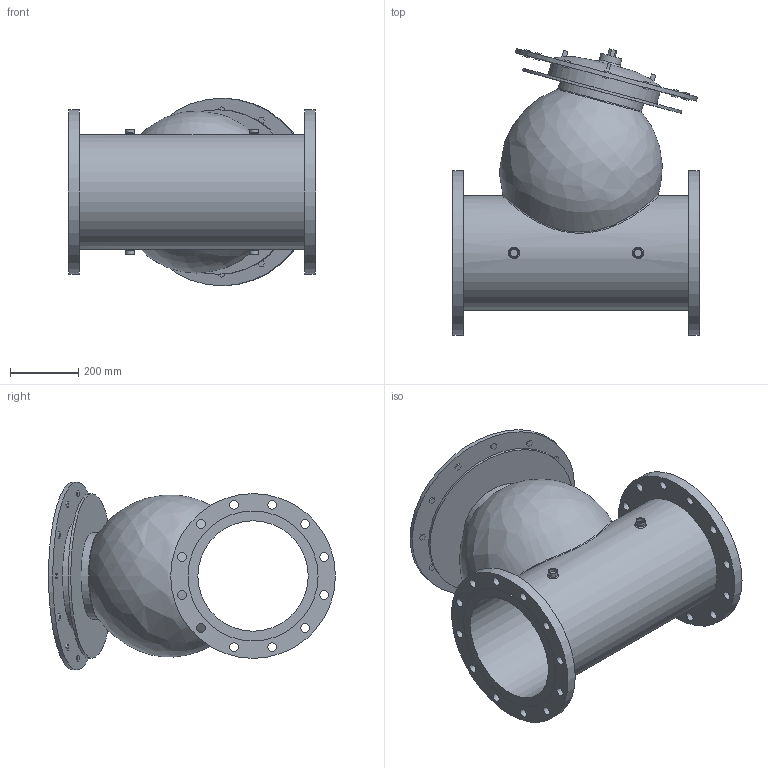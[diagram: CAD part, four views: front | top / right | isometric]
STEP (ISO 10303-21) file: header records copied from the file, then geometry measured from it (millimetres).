
FILE_DESCRIPTION(/* description */ ('VIC FP VALVE PRESSURE RELIEF SERIES 867-7UF (FLG 150)','CAx-IF Rec.Pracs.---Representation and Presentation of Product Manufacturing Information (PMI)---4.0---2014-10-13'),/* implementation_level */ '2;1');
FILE_NAME(/* name */ 'C:\Series 867-7UF\New folder (2)\step\Victaulic_FP-Bermad_Valve Pressure Relief_Series 867-7UF (FLG 150)\Victaulic_FP-Bermad_Valve Pressure Relief_Series 867-7UF (FLG 150)_12 (300).stp',/* time_stamp */ '2021-09-02T12:09:30+06:00',/* author */ ('kkamble'),/* organization */ ('Victaulic'),/* preprocessor_version */ 'ST-DEVELOPER v17.2',/* originating_system */ 'Autodesk Inventor 2019',/* authorisation */ '');
FILE_SCHEMA (('AP242_MANAGED_MODEL_BASED_3D_ENGINEERING_MIM_LF { 1 0 10303 442 1 1 4 }'));
Length unit declared in the file: inch
Products named in the file (1): 867-7UF-12.0
Bounding box: 724.92 x 841.24 x 550.16 mm (x, y, z)
Volume: 67056284.8 mm3; surface area: 3065706.9 mm2
Topology: 1 solids, 1 shells, 266 faces, 680 edges, 461 vertices
Faces by surface type: plane 214, cylinder 43, bspline 7, torus 2
Full cylindrical faces by diameter (mm): 21.336 x4, 25.4 x24, 26.873 x4, 63.5 x1, 254 x1, 323.85 x1, 330.2 x1, 336.55 x1, 381 x2, 482.6 x1, 483.108 x2, 550.164 x1
Entity records: 9431 total; most frequent: CARTESIAN_POINT 2392, ORIENTED_EDGE 1368, DIRECTION 1313, EDGE_CURVE 684, LINE 529, VECTOR 529, VERTEX_POINT 465, AXIS2_PLACEMENT_3D 392
